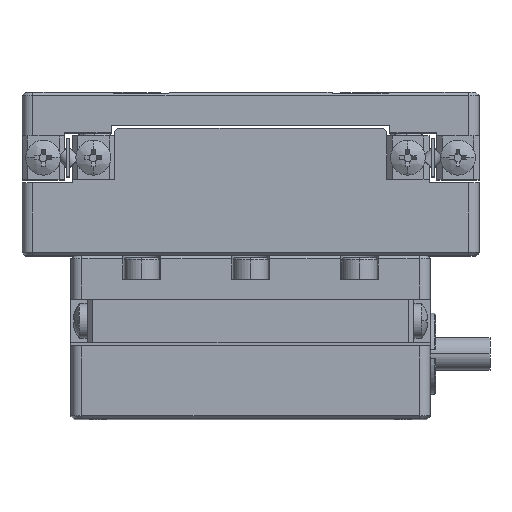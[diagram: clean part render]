
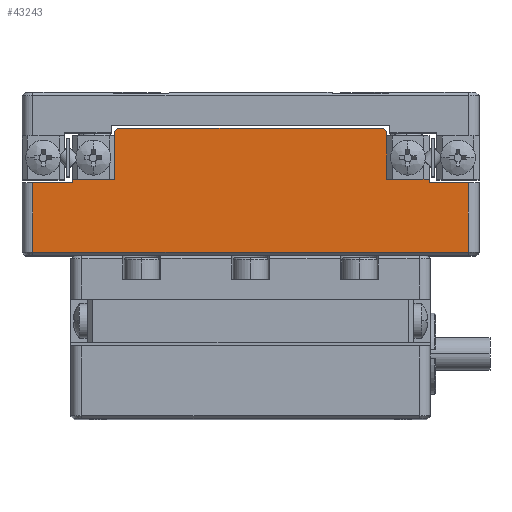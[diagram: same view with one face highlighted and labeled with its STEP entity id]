
A CAD part, top view. The second image highlights one B-rep face of the part: STEP entity #43243.
In plain terms, the highlighted planar face has unit normal (0, 0, 1).
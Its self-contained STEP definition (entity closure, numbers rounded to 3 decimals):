
#631 = VERTEX_POINT ( 'NONE', #13667 ) ;
#745 = VERTEX_POINT ( 'NONE', #24592 ) ;
#1108 = VECTOR ( 'NONE', #10012, 1000. ) ;
#2747 = ORIENTED_EDGE ( 'NONE', *, *, #17637, .F. ) ;
#3123 = VECTOR ( 'NONE', #5178, 1000. ) ;
#3267 = LINE ( 'NONE', #25422, #56257 ) ;
#3808 = CARTESIAN_POINT ( 'NONE',  ( 20., 15.3, 16.5 ) ) ;
#5178 = DIRECTION ( 'NONE',  ( 1., 0., 0. ) ) ;
#5929 = DIRECTION ( 'NONE',  ( 0., -1., 0. ) ) ;
#6524 = DIRECTION ( 'NONE',  ( 1., 0., 0. ) ) ;
#7339 = ORIENTED_EDGE ( 'NONE', *, *, #33870, .F. ) ;
#7939 = EDGE_CURVE ( 'NONE', #64718, #11163, #12154, .T. ) ;
#9144 = CARTESIAN_POINT ( 'NONE',  ( 12.5, 26.4, 16.5 ) ) ;
#9177 = DIRECTION ( 'NONE',  ( 0.707, -0.707, 0. ) ) ;
#9779 = CARTESIAN_POINT ( 'NONE',  ( -20., 26.7, 16.5 ) ) ;
#10012 = DIRECTION ( 'NONE',  ( 1., 0., 0. ) ) ;
#10212 = EDGE_CURVE ( 'NONE', #34534, #40827, #61504, .T. ) ;
#10585 = ORIENTED_EDGE ( 'NONE', *, *, #36572, .F. ) ;
#11163 = VERTEX_POINT ( 'NONE', #20714 ) ;
#11732 = LINE ( 'NONE', #21139, #33283 ) ;
#11931 = ORIENTED_EDGE ( 'NONE', *, *, #16090, .F. ) ;
#11991 = EDGE_LOOP ( 'NONE', ( #61058, #56416, #68209, #43367, #2747, #54680, #21147, #11931, #7339, #47315, #10585, #57374, #46667, #13612 ) ) ;
#12154 = LINE ( 'NONE', #35849, #62709 ) ;
#12873 = VERTEX_POINT ( 'NONE', #29007 ) ;
#13612 = ORIENTED_EDGE ( 'NONE', *, *, #51751, .F. ) ;
#13667 = CARTESIAN_POINT ( 'NONE',  ( -12.5, 22., 16.5 ) ) ;
#14370 = LINE ( 'NONE', #56230, #40867 ) ;
#15250 = CARTESIAN_POINT ( 'NONE',  ( -16.4, 22., 16.5 ) ) ;
#15690 = CARTESIAN_POINT ( 'NONE',  ( -16.4, 26.7, 16.5 ) ) ;
#16090 = EDGE_CURVE ( 'NONE', #19585, #40657, #58424, .T. ) ;
#16224 = CARTESIAN_POINT ( 'NONE',  ( 21., 26.7, 16.5 ) ) ;
#16805 = CARTESIAN_POINT ( 'NONE',  ( 20., 26.7, 16.5 ) ) ;
#17637 = EDGE_CURVE ( 'NONE', #40827, #631, #48327, .T. ) ;
#19585 = VERTEX_POINT ( 'NONE', #54313 ) ;
#19698 = CARTESIAN_POINT ( 'NONE',  ( -16.4, 21.7, 16.5 ) ) ;
#19715 = EDGE_CURVE ( 'NONE', #35273, #12873, #52255, .T. ) ;
#20688 = EDGE_CURVE ( 'NONE', #61972, #36426, #3267, .T. ) ;
#20714 = CARTESIAN_POINT ( 'NONE',  ( 16.4, 22., 16.5 ) ) ;
#21139 = CARTESIAN_POINT ( 'NONE',  ( 21., 21.7, 16.5 ) ) ;
#21147 = ORIENTED_EDGE ( 'NONE', *, *, #34170, .F. ) ;
#22081 = VECTOR ( 'NONE', #59784, 1000. ) ;
#22434 = EDGE_CURVE ( 'NONE', #11163, #28906, #39435, .T. ) ;
#24592 = CARTESIAN_POINT ( 'NONE',  ( 20., 21.7, 16.5 ) ) ;
#25422 = CARTESIAN_POINT ( 'NONE',  ( 12.5, 26.4, 16.5 ) ) ;
#27021 = LINE ( 'NONE', #44640, #57572 ) ;
#28322 = CARTESIAN_POINT ( 'NONE',  ( 21., 15.3, 16.5 ) ) ;
#28906 = VERTEX_POINT ( 'NONE', #47325 ) ;
#29007 = CARTESIAN_POINT ( 'NONE',  ( -12.2, 26.7, 16.5 ) ) ;
#29175 = VECTOR ( 'NONE', #65700, 1000. ) ;
#29634 = EDGE_CURVE ( 'NONE', #12873, #61972, #14370, .T. ) ;
#30409 = LINE ( 'NONE', #44497, #60148 ) ;
#30670 = LINE ( 'NONE', #16805, #57090 ) ;
#30900 = VECTOR ( 'NONE', #43359, 1000. ) ;
#31582 = CARTESIAN_POINT ( 'NONE',  ( 21., 21.7, 16.5 ) ) ;
#32622 = CARTESIAN_POINT ( 'NONE',  ( 12.2, 26.7, 16.5 ) ) ;
#33283 = VECTOR ( 'NONE', #6524, 1000. ) ;
#33870 = EDGE_CURVE ( 'NONE', #40417, #19585, #38294, .T. ) ;
#33967 = CARTESIAN_POINT ( 'NONE',  ( 12.5, 22., 16.5 ) ) ;
#34170 = EDGE_CURVE ( 'NONE', #40657, #34534, #11732, .T. ) ;
#34534 = VERTEX_POINT ( 'NONE', #19698 ) ;
#35273 = VERTEX_POINT ( 'NONE', #43606 ) ;
#35849 = CARTESIAN_POINT ( 'NONE',  ( 21., 22., 16.5 ) ) ;
#36426 = VERTEX_POINT ( 'NONE', #9144 ) ;
#36572 = EDGE_CURVE ( 'NONE', #28906, #745, #50351, .T. ) ;
#37953 = DIRECTION ( 'NONE',  ( 0., 1., 0. ) ) ;
#38294 = LINE ( 'NONE', #28322, #30900 ) ;
#39435 = LINE ( 'NONE', #64917, #22081 ) ;
#40417 = VERTEX_POINT ( 'NONE', #3808 ) ;
#40657 = VERTEX_POINT ( 'NONE', #51725 ) ;
#40827 = VERTEX_POINT ( 'NONE', #15250 ) ;
#40867 = VECTOR ( 'NONE', #50912, 1000. ) ;
#43243 = ADVANCED_FACE ( 'NONE', ( #53262 ), #47867, .F. ) ;
#43359 = DIRECTION ( 'NONE',  ( -1., 0., 0. ) ) ;
#43367 = ORIENTED_EDGE ( 'NONE', *, *, #51309, .F. ) ;
#43606 = CARTESIAN_POINT ( 'NONE',  ( -12.5, 26.4, 16.5 ) ) ;
#44497 = CARTESIAN_POINT ( 'NONE',  ( -12.5, 26.7, 16.5 ) ) ;
#44640 = CARTESIAN_POINT ( 'NONE',  ( 12.5, 26.7, 16.5 ) ) ;
#46667 = ORIENTED_EDGE ( 'NONE', *, *, #7939, .F. ) ;
#46759 = DIRECTION ( 'NONE',  ( 0., 1., 0. ) ) ;
#46890 = DIRECTION ( 'NONE',  ( 1., 0., 0. ) ) ;
#47315 = ORIENTED_EDGE ( 'NONE', *, *, #49613, .F. ) ;
#47325 = CARTESIAN_POINT ( 'NONE',  ( 16.4, 21.7, 16.5 ) ) ;
#47867 = PLANE ( 'NONE',  #58416 ) ;
#48327 = LINE ( 'NONE', #51383, #1108 ) ;
#49613 = EDGE_CURVE ( 'NONE', #745, #40417, #30670, .T. ) ;
#50164 = CARTESIAN_POINT ( 'NONE',  ( -12.5, 26.4, 16.5 ) ) ;
#50351 = LINE ( 'NONE', #31582, #3123 ) ;
#50912 = DIRECTION ( 'NONE',  ( 1., 0., 0. ) ) ;
#51309 = EDGE_CURVE ( 'NONE', #631, #35273, #30409, .T. ) ;
#51383 = CARTESIAN_POINT ( 'NONE',  ( 21., 22., 16.5 ) ) ;
#51725 = CARTESIAN_POINT ( 'NONE',  ( -20., 21.7, 16.5 ) ) ;
#51751 = EDGE_CURVE ( 'NONE', #36426, #64718, #27021, .T. ) ;
#52255 = LINE ( 'NONE', #50164, #29175 ) ;
#53262 = FACE_OUTER_BOUND ( 'NONE', #11991, .T. ) ;
#54313 = CARTESIAN_POINT ( 'NONE',  ( -20., 15.3, 16.5 ) ) ;
#54680 = ORIENTED_EDGE ( 'NONE', *, *, #10212, .F. ) ;
#56230 = CARTESIAN_POINT ( 'NONE',  ( 21., 26.7, 16.5 ) ) ;
#56257 = VECTOR ( 'NONE', #9177, 1000. ) ;
#56416 = ORIENTED_EDGE ( 'NONE', *, *, #29634, .F. ) ;
#57090 = VECTOR ( 'NONE', #5929, 1000. ) ;
#57374 = ORIENTED_EDGE ( 'NONE', *, *, #22434, .F. ) ;
#57572 = VECTOR ( 'NONE', #65022, 1000. ) ;
#58416 = AXIS2_PLACEMENT_3D ( 'NONE', #16224, #64576, #37953 ) ;
#58424 = LINE ( 'NONE', #9779, #60100 ) ;
#59034 = VECTOR ( 'NONE', #63377, 1000. ) ;
#59784 = DIRECTION ( 'NONE',  ( 0., -1., 0. ) ) ;
#60100 = VECTOR ( 'NONE', #46759, 1000. ) ;
#60148 = VECTOR ( 'NONE', #60197, 1000. ) ;
#60197 = DIRECTION ( 'NONE',  ( 0., 1., 0. ) ) ;
#61058 = ORIENTED_EDGE ( 'NONE', *, *, #20688, .F. ) ;
#61504 = LINE ( 'NONE', #15690, #59034 ) ;
#61972 = VERTEX_POINT ( 'NONE', #32622 ) ;
#62709 = VECTOR ( 'NONE', #46890, 1000. ) ;
#63377 = DIRECTION ( 'NONE',  ( 0., 1., 0. ) ) ;
#64576 = DIRECTION ( 'NONE',  ( 0., 0., -1. ) ) ;
#64718 = VERTEX_POINT ( 'NONE', #33967 ) ;
#64917 = CARTESIAN_POINT ( 'NONE',  ( 16.4, 26.7, 16.5 ) ) ;
#65022 = DIRECTION ( 'NONE',  ( 0., -1., 0. ) ) ;
#65700 = DIRECTION ( 'NONE',  ( 0.707, 0.707, 0. ) ) ;
#68209 = ORIENTED_EDGE ( 'NONE', *, *, #19715, .F. ) ;
